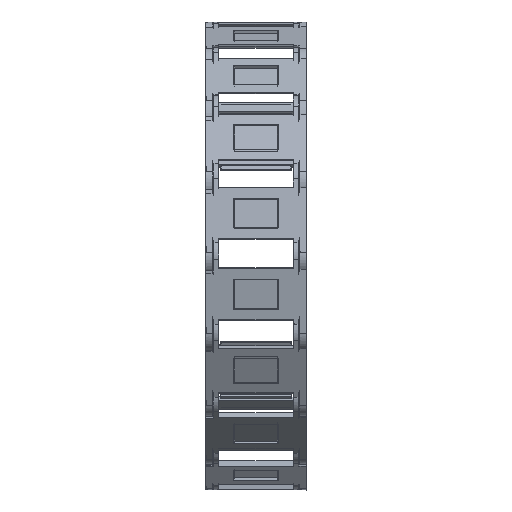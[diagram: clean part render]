
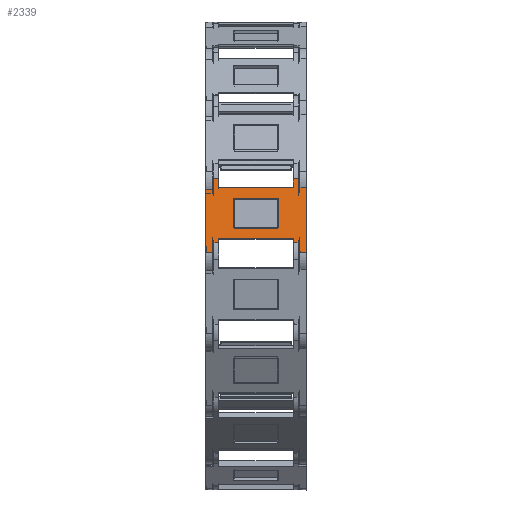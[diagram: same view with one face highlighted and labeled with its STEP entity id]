
A CAD part, front view. The second image highlights one B-rep face of the part: STEP entity #2339.
In plain terms, the highlighted planar face has unit normal (0, -0.985, 0.174) as drawn and (0, 0, -1) by its records, which use the part's own axes.
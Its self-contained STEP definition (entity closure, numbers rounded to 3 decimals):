
#111=FACE_BOUND('',#2725,.T.);
#154=PLANE('',#8392);
#2339=ADVANCED_FACE('',(#2528,#111),#154,.T.);
#2528=FACE_OUTER_BOUND('',#2724,.T.);
#2724=EDGE_LOOP('',(#3008));
#2725=EDGE_LOOP('',(#3009));
#3008=ORIENTED_EDGE('',*,*,#5980,.T.);
#3009=ORIENTED_EDGE('',*,*,#5981,.T.);
#3997=PCURVE('',#154,#4658);
#3998=PCURVE('',#154,#4659);
#4658=DEFINITIONAL_REPRESENTATION('',(#6693),#16828);
#4659=DEFINITIONAL_REPRESENTATION('',(#6695),#16828);
#5319=SURFACE_CURVE('',#6692,(#3997),.PCURVE_S1.);
#5320=SURFACE_CURVE('',#6694,(#3998),.PCURVE_S1.);
#5980=EDGE_CURVE('',#7635,#7635,#5319,.T.);
#5981=EDGE_CURVE('',#7636,#7636,#5320,.T.);
#6692=B_SPLINE_CURVE_WITH_KNOTS('',1,(#9740,#9741,#9742,#9743,#9744,#9745,
#9746,#9747,#9748,#9749,#9750,#9751,#9752,#9753,#9754,#9755,#9756,#9757,
#9758,#9759,#9760),.UNSPECIFIED.,.T.,.F.,(2,1,1,1,1,1,1,1,1,1,1,1,1,1,1,
1,1,1,1,1,2),(0.,1.,2.,3.,4.,5.,6.,7.,8.,9.,10.,11.,12.,13.,14.,15.,16.,
17.,18.,19.,20.),.UNSPECIFIED.);
#6693=B_SPLINE_CURVE_WITH_KNOTS('',1,(#9761,#9762,#9763,#9764,#9765,#9766,
#9767,#9768,#9769,#9770,#9771,#9772,#9773,#9774,#9775,#9776,#9777,#9778,
#9779,#9780,#9781),.UNSPECIFIED.,.T.,.F.,(2,1,1,1,1,1,1,1,1,1,1,1,1,1,1,
1,1,1,1,1,2),(0.,1.,2.,3.,4.,5.,6.,7.,8.,9.,10.,11.,12.,13.,14.,15.,16.,
17.,18.,19.,20.),.UNSPECIFIED.);
#6694=B_SPLINE_CURVE_WITH_KNOTS('',1,(#9782,#9783,#9784,#9785,#9786),
 .UNSPECIFIED.,.T.,.F.,(2,1,1,1,2),(0.,1.,2.,3.,4.),.UNSPECIFIED.);
#6695=B_SPLINE_CURVE_WITH_KNOTS('',1,(#9787,#9788,#9789,#9790,#9791),
 .UNSPECIFIED.,.T.,.F.,(2,1,1,1,2),(0.,1.,2.,3.,4.),.UNSPECIFIED.);
#7635=VERTEX_POINT('',#9738);
#7636=VERTEX_POINT('',#9739);
#8392=AXIS2_PLACEMENT_3D('',#9737,#8516,$);
#8516=DIRECTION('',(0.,0.,-1.));
#9737=CARTESIAN_POINT('',(-27.,0.,-6.));
#9738=CARTESIAN_POINT('',(-25.,-20.,-6.));
#9739=CARTESIAN_POINT('',(-7.596,-14.6,-6.));
#9740=CARTESIAN_POINT('',(-25.,-20.,-6.));
#9741=CARTESIAN_POINT('',(-25.,-17.017,-6.));
#9742=CARTESIAN_POINT('',(-27.,-17.017,-6.));
#9743=CARTESIAN_POINT('',(-27.,0.,-6.));
#9744=CARTESIAN_POINT('',(-25.1,0.,-6.));
#9745=CARTESIAN_POINT('',(-25.1,-2.5,-6.));
#9746=CARTESIAN_POINT('',(-23.5,-2.5,-6.));
#9747=CARTESIAN_POINT('',(-23.5,-3.6,-6.));
#9748=CARTESIAN_POINT('',(-3.5,-3.6,-6.));
#9749=CARTESIAN_POINT('',(-3.5,-2.5,-6.));
#9750=CARTESIAN_POINT('',(-1.9,-2.5,-6.));
#9751=CARTESIAN_POINT('',(-1.9,0.,-6.));
#9752=CARTESIAN_POINT('',(0.,0.,-6.));
#9753=CARTESIAN_POINT('',(0.,-17.5,-6.));
#9754=CARTESIAN_POINT('',(-2.,-17.5,-6.));
#9755=CARTESIAN_POINT('',(-2.,-20.,-6.));
#9756=CARTESIAN_POINT('',(-3.5,-20.,-6.));
#9757=CARTESIAN_POINT('',(-3.5,-17.6,-6.));
#9758=CARTESIAN_POINT('',(-23.5,-17.6,-6.));
#9759=CARTESIAN_POINT('',(-23.5,-20.,-6.));
#9760=CARTESIAN_POINT('',(-25.,-20.,-6.));
#9761=CARTESIAN_POINT('',(0.074,1.));
#9762=CARTESIAN_POINT('',(0.074,0.851));
#9763=CARTESIAN_POINT('',(0.,0.851));
#9764=CARTESIAN_POINT('',(0.,0.));
#9765=CARTESIAN_POINT('',(0.07,0.));
#9766=CARTESIAN_POINT('',(0.07,0.125));
#9767=CARTESIAN_POINT('',(0.13,0.125));
#9768=CARTESIAN_POINT('',(0.13,0.18));
#9769=CARTESIAN_POINT('',(0.87,0.18));
#9770=CARTESIAN_POINT('',(0.87,0.125));
#9771=CARTESIAN_POINT('',(0.93,0.125));
#9772=CARTESIAN_POINT('',(0.93,0.));
#9773=CARTESIAN_POINT('',(1.,0.));
#9774=CARTESIAN_POINT('',(1.,0.875));
#9775=CARTESIAN_POINT('',(0.926,0.875));
#9776=CARTESIAN_POINT('',(0.926,1.));
#9777=CARTESIAN_POINT('',(0.87,1.));
#9778=CARTESIAN_POINT('',(0.87,0.88));
#9779=CARTESIAN_POINT('',(0.13,0.88));
#9780=CARTESIAN_POINT('',(0.13,1.));
#9781=CARTESIAN_POINT('',(0.074,1.));
#9782=CARTESIAN_POINT('',(-7.596,-14.6,-6.));
#9783=CARTESIAN_POINT('',(-7.596,-6.6,-6.));
#9784=CARTESIAN_POINT('',(-19.404,-6.6,-6.));
#9785=CARTESIAN_POINT('',(-19.404,-14.6,-6.));
#9786=CARTESIAN_POINT('',(-7.596,-14.6,-6.));
#9787=CARTESIAN_POINT('',(0.719,0.73));
#9788=CARTESIAN_POINT('',(0.719,0.33));
#9789=CARTESIAN_POINT('',(0.281,0.33));
#9790=CARTESIAN_POINT('',(0.281,0.73));
#9791=CARTESIAN_POINT('',(0.719,0.73));
#16828=(
GEOMETRIC_REPRESENTATION_CONTEXT(2)
PARAMETRIC_REPRESENTATION_CONTEXT()
REPRESENTATION_CONTEXT('pspace','')
);
